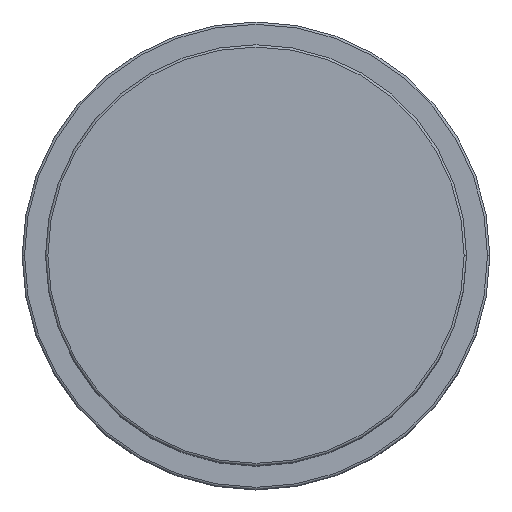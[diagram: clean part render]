
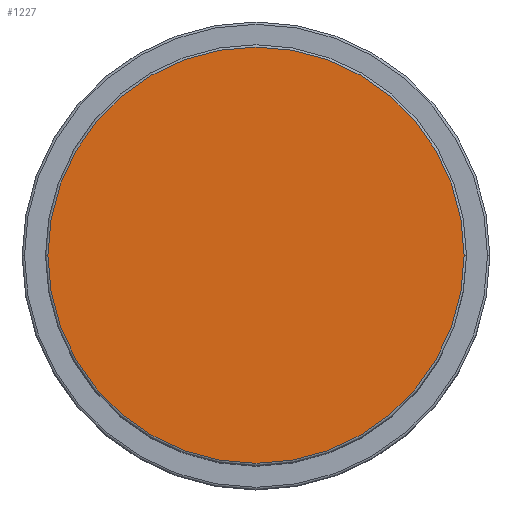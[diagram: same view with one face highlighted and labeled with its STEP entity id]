
A CAD part, top view. The second image highlights one B-rep face of the part: STEP entity #1227.
In plain terms, the highlighted planar face has unit normal (0, 0, 1).
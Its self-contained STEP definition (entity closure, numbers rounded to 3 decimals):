
#12 = PLANE ( 'NONE',  #898 ) ;
#141 = ORIENTED_EDGE ( 'NONE', *, *, #1170, .T. ) ;
#143 = CARTESIAN_POINT ( 'NONE',  ( 44.5, 0., 97. ) ) ;
#319 = CARTESIAN_POINT ( 'NONE',  ( 0., 0., 97. ) ) ;
#411 = DIRECTION ( 'NONE',  ( 0., 0., 1. ) ) ;
#423 = DIRECTION ( 'NONE',  ( 1., 0., 0. ) ) ;
#476 = EDGE_CURVE ( 'NONE', #971, #1814, #1552, .T. ) ;
#692 = CARTESIAN_POINT ( 'NONE',  ( -44.5, 0., 97. ) ) ;
#803 = ORIENTED_EDGE ( 'NONE', *, *, #476, .T. ) ;
#898 = AXIS2_PLACEMENT_3D ( 'NONE', #319, #1715, #1257 ) ;
#971 = VERTEX_POINT ( 'NONE', #692 ) ;
#1170 = EDGE_CURVE ( 'NONE', #1814, #971, #1385, .T. ) ;
#1225 = DIRECTION ( 'NONE',  ( 0., 0., 1. ) ) ;
#1227 = ADVANCED_FACE ( 'NONE', ( #1991 ), #12, .T. ) ;
#1257 = DIRECTION ( 'NONE',  ( 1., 0., 0. ) ) ;
#1311 = AXIS2_PLACEMENT_3D ( 'NONE', #1386, #1225, #423 ) ;
#1331 = CARTESIAN_POINT ( 'NONE',  ( 0., 0., 97. ) ) ;
#1385 = CIRCLE ( 'NONE', #1311, 44.5 ) ;
#1386 = CARTESIAN_POINT ( 'NONE',  ( 0., 0., 97. ) ) ;
#1421 = AXIS2_PLACEMENT_3D ( 'NONE', #1331, #411, #1656 ) ;
#1552 = CIRCLE ( 'NONE', #1421, 44.5 ) ;
#1656 = DIRECTION ( 'NONE',  ( 1., 0., 0. ) ) ;
#1704 = EDGE_LOOP ( 'NONE', ( #141, #803 ) ) ;
#1715 = DIRECTION ( 'NONE',  ( 0., 0., 1. ) ) ;
#1814 = VERTEX_POINT ( 'NONE', #143 ) ;
#1991 = FACE_OUTER_BOUND ( 'NONE', #1704, .T. ) ;
